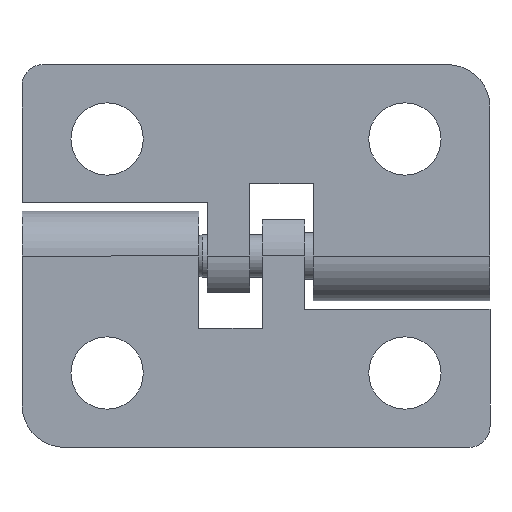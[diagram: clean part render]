
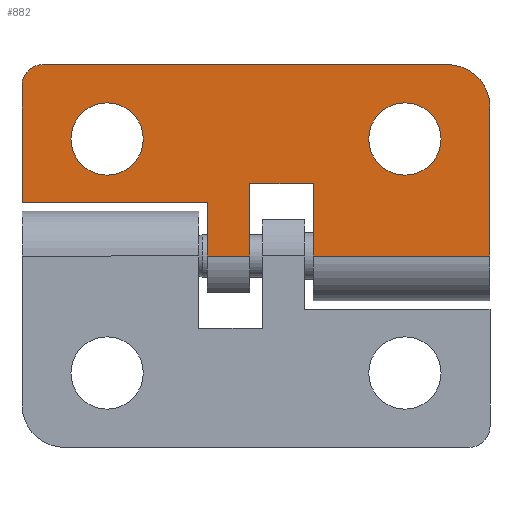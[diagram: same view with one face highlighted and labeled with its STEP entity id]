
A CAD part, left-side view. The second image highlights one B-rep face of the part: STEP entity #882.
In plain terms, the highlighted planar face has unit normal (-1, 0, 0) as drawn and (0, 0, -1) by its records, which use the part's own axes.
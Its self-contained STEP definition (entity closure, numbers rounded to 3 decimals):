
#3 = EDGE_CURVE ( 'NONE', #1352, #58, #178, .T. ) ;
#15 = ORIENTED_EDGE ( 'NONE', *, *, #3, .F. ) ;
#16 = EDGE_CURVE ( 'NONE', #1377, #95, #347, .T. ) ;
#32 = VERTEX_POINT ( 'NONE', #445 ) ;
#47 = EDGE_CURVE ( 'NONE', #32, #116, #581, .T. ) ;
#50 = ORIENTED_EDGE ( 'NONE', *, *, #16, .F. ) ;
#58 = VERTEX_POINT ( 'NONE', #668 ) ;
#68 = EDGE_CURVE ( 'NONE', #109, #58, #763, .T. ) ;
#69 = ORIENTED_EDGE ( 'NONE', *, *, #68, .T. ) ;
#75 = ORIENTED_EDGE ( 'NONE', *, *, #47, .F. ) ;
#95 = VERTEX_POINT ( 'NONE', #250 ) ;
#109 = VERTEX_POINT ( 'NONE', #346 ) ;
#116 = VERTEX_POINT ( 'NONE', #378 ) ;
#120 = EDGE_CURVE ( 'NONE', #95, #513, #404, .T. ) ;
#129 = VERTEX_POINT ( 'NONE', #487 ) ;
#131 = EDGE_CURVE ( 'NONE', #512, #1280, #501, .T. ) ;
#133 = ORIENTED_EDGE ( 'NONE', *, *, #1218, .F. ) ;
#136 = EDGE_CURVE ( 'NONE', #116, #687, #529, .T. ) ;
#145 = EDGE_CURVE ( 'NONE', #129, #109, #596, .T. ) ;
#149 = ORIENTED_EDGE ( 'NONE', *, *, #688, .F. ) ;
#150 = ORIENTED_EDGE ( 'NONE', *, *, #120, .F. ) ;
#166 = ORIENTED_EDGE ( 'NONE', *, *, #131, .F. ) ;
#178 = LINE ( 'NONE', #179, #180 ) ;
#179 = CARTESIAN_POINT ( 'NONE',  ( -9., 11., -2.1 ) ) ;
#180 = VECTOR ( 'NONE', #181, 1000. ) ;
#181 = DIRECTION ( 'NONE',  ( 0., -1., 0. ) ) ;
#200 = ORIENTED_EDGE ( 'NONE', *, *, #136, .F. ) ;
#231 = CARTESIAN_POINT ( 'NONE',  ( 0., 0.3, -2.1 ) ) ;
#232 = CARTESIAN_POINT ( 'NONE',  ( 0., -2.7, -2.1 ) ) ;
#240 = CARTESIAN_POINT ( 'NONE',  ( -7.2, 7., -2.1 ) ) ;
#241 = CARTESIAN_POINT ( 'NONE',  ( -3.4, 0.3, -2.1 ) ) ;
#250 = CARTESIAN_POINT ( 'NONE',  ( -3.4, -2.7, -2.1 ) ) ;
#276 = CARTESIAN_POINT ( 'NONE',  ( -3.8, -7., -2.1 ) ) ;
#277 = CARTESIAN_POINT ( 'NONE',  ( -7.2, -7., -2.1 ) ) ;
#332 = CARTESIAN_POINT ( 'NONE',  ( -8., 11., -2.1 ) ) ;
#333 = LINE ( 'NONE', #334, #335 ) ;
#334 = CARTESIAN_POINT ( 'NONE',  ( 2.1, 0.3, -2.1 ) ) ;
#335 = VECTOR ( 'NONE', #336, 1000. ) ;
#336 = DIRECTION ( 'NONE',  ( 1., 0., 0. ) ) ;
#342 = LINE ( 'NONE', #343, #344 ) ;
#343 = CARTESIAN_POINT ( 'NONE',  ( 0., 11., -2.1 ) ) ;
#344 = VECTOR ( 'NONE', #345, 1000. ) ;
#345 = DIRECTION ( 'NONE',  ( 0., -1., 0. ) ) ;
#346 = CARTESIAN_POINT ( 'NONE',  ( -7., -11., -2.1 ) ) ;
#347 = LINE ( 'NONE', #348, #349 ) ;
#348 = CARTESIAN_POINT ( 'NONE',  ( -3.4, -2.7, -2.1 ) ) ;
#349 = VECTOR ( 'NONE', #350, 1000. ) ;
#350 = DIRECTION ( 'NONE',  ( -1., 0., 0. ) ) ;
#378 = CARTESIAN_POINT ( 'NONE',  ( -2.5, 11., -2.1 ) ) ;
#385 = LINE ( 'NONE', #386, #387 ) ;
#386 = CARTESIAN_POINT ( 'NONE',  ( 0., 11., -2.1 ) ) ;
#387 = VECTOR ( 'NONE', #388, 1000. ) ;
#388 = DIRECTION ( 'NONE',  ( 0., -1., 0. ) ) ;
#404 = LINE ( 'NONE', #405, #406 ) ;
#405 = CARTESIAN_POINT ( 'NONE',  ( -3.4, 0.3, -2.1 ) ) ;
#406 = VECTOR ( 'NONE', #407, 1000. ) ;
#407 = DIRECTION ( 'NONE',  ( 0., 1., 0. ) ) ;
#426 = CIRCLE ( 'NONE', #427, 1.7 ) ;
#427 = AXIS2_PLACEMENT_3D ( 'NONE', #428, #429, #430 ) ;
#428 = CARTESIAN_POINT ( 'NONE',  ( -5.5, -7., -2.1 ) ) ;
#429 = DIRECTION ( 'NONE',  ( 0., 0., -1. ) ) ;
#430 = DIRECTION ( 'NONE',  ( -1., 0., 0. ) ) ;
#445 = CARTESIAN_POINT ( 'NONE',  ( -2.5, 2.3, -2.1 ) ) ;
#461 = FACE_BOUND ( 'NONE', #654, .T. ) ;
#462 = FACE_OUTER_BOUND ( 'NONE', #1316, .T. ) ;
#463 = FACE_BOUND ( 'NONE', #1289, .T. ) ;
#464 = PLANE ( 'NONE',  #465 ) ;
#465 = AXIS2_PLACEMENT_3D ( 'NONE', #466, #467, #468 ) ;
#466 = CARTESIAN_POINT ( 'NONE',  ( 0., 11., -2.1 ) ) ;
#467 = DIRECTION ( 'NONE',  ( 0., 0., 1. ) ) ;
#468 = DIRECTION ( 'NONE',  ( 1., 0., 0. ) ) ;
#474 = CARTESIAN_POINT ( 'NONE',  ( 0., 2.3, -2.1 ) ) ;
#487 = CARTESIAN_POINT ( 'NONE',  ( 0., -11., -2.1 ) ) ;
#493 = VERTEX_POINT ( 'NONE', #231 ) ;
#496 = CIRCLE ( 'NONE', #497, 1.7 ) ;
#497 = AXIS2_PLACEMENT_3D ( 'NONE', #498, #499, #500 ) ;
#498 = CARTESIAN_POINT ( 'NONE',  ( -5.5, 7., -2.1 ) ) ;
#499 = DIRECTION ( 'NONE',  ( 0., 0., -1. ) ) ;
#500 = DIRECTION ( 'NONE',  ( -1., 0., 0. ) ) ;
#501 = CIRCLE ( 'NONE', #502, 1.7 ) ;
#502 = AXIS2_PLACEMENT_3D ( 'NONE', #503, #504, #505 ) ;
#503 = CARTESIAN_POINT ( 'NONE',  ( -5.5, 7., -2.1 ) ) ;
#504 = DIRECTION ( 'NONE',  ( 0., 0., -1. ) ) ;
#505 = DIRECTION ( 'NONE',  ( -1., 0., 0. ) ) ;
#512 = VERTEX_POINT ( 'NONE', #240 ) ;
#513 = VERTEX_POINT ( 'NONE', #241 ) ;
#529 = LINE ( 'NONE', #530, #533 ) ;
#530 = CARTESIAN_POINT ( 'NONE',  ( 0., 11., -2.1 ) ) ;
#533 = VECTOR ( 'NONE', #534, 1000. ) ;
#534 = DIRECTION ( 'NONE',  ( -1., 0., 0. ) ) ;
#581 = LINE ( 'NONE', #583, #584 ) ;
#583 = CARTESIAN_POINT ( 'NONE',  ( -2.5, 11., -2.1 ) ) ;
#584 = VECTOR ( 'NONE', #585, 1000. ) ;
#585 = DIRECTION ( 'NONE',  ( 0., 1., 0. ) ) ;
#596 = LINE ( 'NONE', #597, #598 ) ;
#597 = CARTESIAN_POINT ( 'NONE',  ( 0., -11., -2.1 ) ) ;
#598 = VECTOR ( 'NONE', #603, 1000. ) ;
#600 = VERTEX_POINT ( 'NONE', #276 ) ;
#601 = VERTEX_POINT ( 'NONE', #277 ) ;
#603 = DIRECTION ( 'NONE',  ( -1., 0., 0. ) ) ;
#621 = LINE ( 'NONE', #622, #623 ) ;
#622 = CARTESIAN_POINT ( 'NONE',  ( 2.1, 2.3, -2.1 ) ) ;
#623 = VECTOR ( 'NONE', #624, 1000. ) ;
#624 = DIRECTION ( 'NONE',  ( -1., 0., 0. ) ) ;
#654 = EDGE_LOOP ( 'NONE', ( #166, #1337 ) ) ;
#668 = CARTESIAN_POINT ( 'NONE',  ( -9., -9., -2.1 ) ) ;
#683 = CIRCLE ( 'NONE', #684, 1.7 ) ;
#684 = AXIS2_PLACEMENT_3D ( 'NONE', #685, #686, #690 ) ;
#685 = CARTESIAN_POINT ( 'NONE',  ( -5.5, -7., -2.1 ) ) ;
#686 = DIRECTION ( 'NONE',  ( 0., 0., -1. ) ) ;
#687 = VERTEX_POINT ( 'NONE', #332 ) ;
#688 = EDGE_CURVE ( 'NONE', #513, #493, #333, .T. ) ;
#690 = DIRECTION ( 'NONE',  ( -1., 0., 0. ) ) ;
#706 = EDGE_CURVE ( 'NONE', #1315, #493, #342, .T. ) ;
#715 = CARTESIAN_POINT ( 'NONE',  ( -9., 10., -2.1 ) ) ;
#763 = CIRCLE ( 'NONE', #764, 2. ) ;
#764 = AXIS2_PLACEMENT_3D ( 'NONE', #765, #766, #767 ) ;
#765 = CARTESIAN_POINT ( 'NONE',  ( -7., -9., -2.1 ) ) ;
#766 = DIRECTION ( 'NONE',  ( 0., 0., -1. ) ) ;
#767 = DIRECTION ( 'NONE',  ( 1., 0., 0. ) ) ;
#812 = EDGE_CURVE ( 'NONE', #600, #601, #426, .T. ) ;
#834 = CIRCLE ( 'NONE', #835, 1. ) ;
#835 = AXIS2_PLACEMENT_3D ( 'NONE', #836, #837, #838 ) ;
#836 = CARTESIAN_POINT ( 'NONE',  ( -8., 10., -2.1 ) ) ;
#837 = DIRECTION ( 'NONE',  ( 0., 0., -1. ) ) ;
#838 = DIRECTION ( 'NONE',  ( 1., 0., 0. ) ) ;
#839 = CARTESIAN_POINT ( 'NONE',  ( -3.8, 7., -2.1 ) ) ;
#882 = ADVANCED_FACE ( 'NONE', ( #461, #462, #463 ), #464, .F. ) ;
#1218 = EDGE_CURVE ( 'NONE', #601, #600, #683, .T. ) ;
#1259 = ORIENTED_EDGE ( 'NONE', *, *, #145, .T. ) ;
#1273 = EDGE_CURVE ( 'NONE', #1352, #687, #834, .T. ) ;
#1280 = VERTEX_POINT ( 'NONE', #839 ) ;
#1289 = EDGE_LOOP ( 'NONE', ( #133, #1332 ) ) ;
#1293 = ORIENTED_EDGE ( 'NONE', *, *, #706, .T. ) ;
#1307 = ORIENTED_EDGE ( 'NONE', *, *, #1273, .T. ) ;
#1308 = EDGE_CURVE ( 'NONE', #1377, #129, #385, .T. ) ;
#1315 = VERTEX_POINT ( 'NONE', #474 ) ;
#1316 = EDGE_LOOP ( 'NONE', ( #1259, #69, #15, #1307, #200, #75, #1366, #1293, #149, #150, #50, #1338 ) ) ;
#1320 = EDGE_CURVE ( 'NONE', #1280, #512, #496, .T. ) ;
#1332 = ORIENTED_EDGE ( 'NONE', *, *, #812, .F. ) ;
#1336 = EDGE_CURVE ( 'NONE', #1315, #32, #621, .T. ) ;
#1337 = ORIENTED_EDGE ( 'NONE', *, *, #1320, .F. ) ;
#1338 = ORIENTED_EDGE ( 'NONE', *, *, #1308, .T. ) ;
#1352 = VERTEX_POINT ( 'NONE', #715 ) ;
#1366 = ORIENTED_EDGE ( 'NONE', *, *, #1336, .F. ) ;
#1377 = VERTEX_POINT ( 'NONE', #232 ) ;
